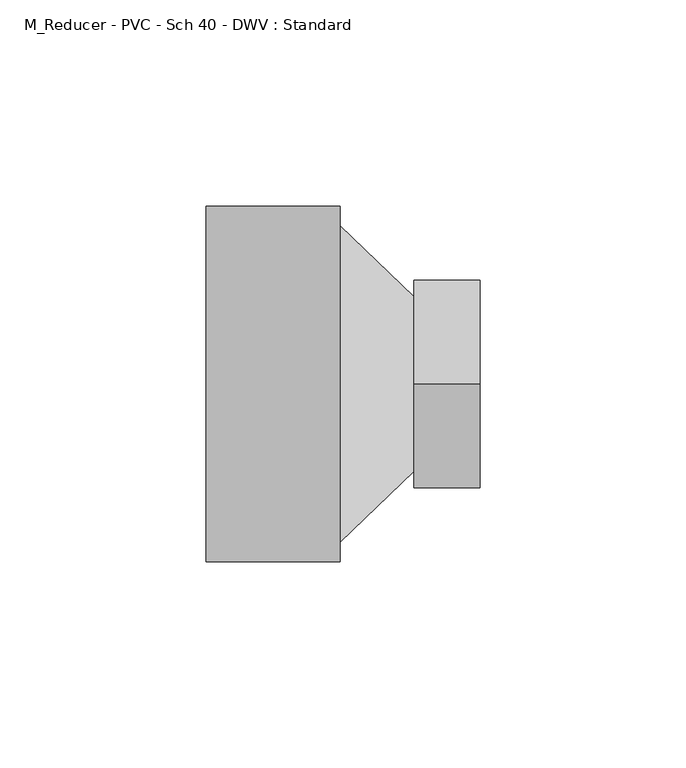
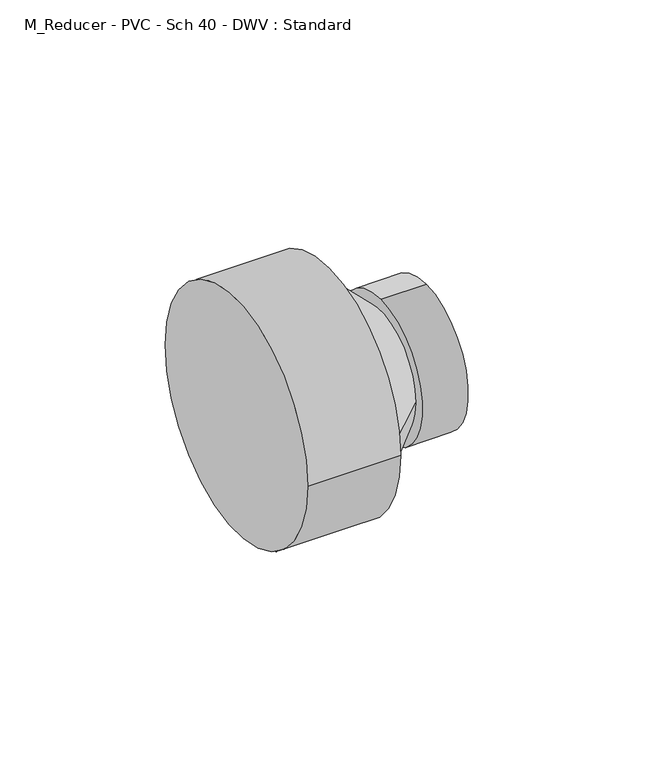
"""IFC4 building model written with IfcOpenShell, lengths in millimetres: pipe fitting geometry, M_Reducer - PVC - Sch 40 - DWV : Standard."""

from ifc_helpers import new_model, si_unit, frame, origin, place, context, project, spatial, circle_curve, source, transform, mapped, element, save
from ifc_brep_helpers import plane_surface, cylinder_surface, spline_surface, advanced_brep


def m_reducer_pvc_sch_40_dwv_standard_d5f313ea(model_context):
    return source(origin(), model_context, "Body", "AdvancedBrep", [
        advanced_brep(
        [(0.0, -43.0871094, 0.0), (0.0, 43.0871094, 0.0), (32.5, -43.0871094, 0.0), (32.5, 43.0871094, 0.0), (32.5, 38.3640625, 0.0), (32.5, -38.3640625, 0.0), (50.4060938, 21.2049931, -0.0523324), (50.4060938, -21.2031319, -0.0523324), (50.4060938, 0.0009306, 25.214777), (50.4060938, 0.0009306, -25.3194417), (66.4060938, 0.0009306, 25.214777), (66.4060938, 0.0009306, -25.3194417)],
        [
            (0, 1, circle_curve(frame((0.0, 0.0, 0.0), z_axis=(-1.0, 0.0, 0.0), x_axis=(0.0, 1.0, 0.0)), 43.0871094)),
            (1, 0, circle_curve(frame((0.0, 0.0, 0.0), z_axis=(-1.0, 0.0, 0.0), x_axis=(0.0, 1.0, 0.0)), 43.0871094)),
            (2, 3, circle_curve(frame((32.5, 0.0, 0.0), z_axis=(1.0, 0.0, 0.0), x_axis=(0.0, 1.0, 0.0)), 43.0871094)),
            (3, 2, circle_curve(frame((32.5, 0.0, 0.0), z_axis=(1.0, 0.0, 0.0), x_axis=(0.0, 1.0, 0.0)), 43.0871094)),
            (4, 5, circle_curve(frame((32.5, 0.0, 0.0), z_axis=(-1.0, 0.0, 0.0), x_axis=(0.0, 1.0, 0.0)), 38.3640625)),
            (5, 4, circle_curve(frame((32.5, 0.0, 0.0), z_axis=(-1.0, 0.0, 0.0), x_axis=(0.0, 1.0, 0.0)), 38.3640625)),
            (0, 2),
            (3, 1),
            (4, 6),
            (6, 7, circle_curve(frame((50.4060938, 0.0009306, -0.0523324), z_axis=(-1.0, 0.0, 0.0), x_axis=(0.0, 1.0, 0.0)), 21.2040625)),
            (7, 5),
            (7, 6, circle_curve(frame((50.4060938, 0.0009306, -0.0523324), z_axis=(-1.0, 0.0, 0.0), x_axis=(0.0, 1.0, 0.0)), 21.2040625)),
            (8, 9, circle_curve(frame((50.4060938, 0.0009306, -0.0523324), z_axis=(-1.0, 0.0, 0.0), x_axis=(0.0, 0.0, -1.0)), 25.2671094)),
            (9, 8, circle_curve(frame((50.4060938, 0.0009306, -0.0523324), z_axis=(-1.0, 0.0, 0.0), x_axis=(0.0, 0.0, -1.0)), 25.2671094)),
            (10, 11, circle_curve(frame((66.4060938, 0.0009306, -0.0523324), z_axis=(1.0, 0.0, 0.0), x_axis=(0.0, 0.0, -1.0)), 25.2671094)),
            (11, 10, circle_curve(frame((66.4060938, 0.0009306, -0.0523324), z_axis=(1.0, 0.0, 0.0), x_axis=(0.0, 0.0, -1.0)), 25.2671094)),
            (8, 10),
            (11, 9),
        ],
        [
            plane_surface(frame((0.0, 0.0, 0.0), z_axis=(-1.0, 0.0, 0.0), x_axis=(0.0, 0.0, 1.0))),
            plane_surface(frame((32.5, 0.0, 0.0), z_axis=(1.0, 0.0, 0.0), x_axis=(0.0, 0.0, 1.0))),
            cylinder_surface(frame((0.0, 0.0, 0.0), z_axis=(-1.0, 0.0, 0.0), x_axis=(0.0, 1.0, 0.0)), 43.0871094),
            spline_surface(2, 1, [[(32.5, -38.3640625, 0.0), (50.4060938, -21.2031319, -0.0523324)], [(32.5, -38.3640625, -38.3640625), (50.4060938, -21.2031319, -21.2563949)], [(32.5, 0.0, -38.3640625), (50.4060938, 0.0009306, -21.2563949)], [(32.5, 38.3640625, -38.3640625), (50.4060938, 21.2049931, -21.2563949)], [(32.5, 38.3640625, 0.0), (50.4060938, 21.2049931, -0.0523324)]], [3, 2, 3], [2, 2], [0.0, 1.0, 2.0], [0.0, 1.0], weights=[[1.0, 1.0], [0.7071067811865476, 0.7071067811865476], [1.0, 1.0], [0.7071067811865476, 0.7071067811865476], [1.0, 1.0]]),
            spline_surface(2, 1, [[(32.5, 38.3640625, 0.0), (50.4060938, 21.2049931, -0.0523324)], [(32.5, 38.3640625, 38.3640625), (50.4060938, 21.2049931, 21.151730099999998)], [(32.5, 0.0, 38.3640625), (50.4060938, 0.0009306, 21.151730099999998)], [(32.5, -38.3640625, 38.3640625), (50.4060938, -21.2031319, 21.151730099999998)], [(32.5, -38.3640625, 0.0), (50.4060938, -21.2031319, -0.0523324)]], [3, 2, 3], [2, 2], [0.0, 1.0, 2.0], [0.0, 1.0], weights=[[1.0, 1.0], [0.7071067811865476, 0.7071067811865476], [1.0, 1.0], [0.7071067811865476, 0.7071067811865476], [1.0, 1.0]]),
            plane_surface(frame((50.4060938, 0.0009306, -0.0523324), z_axis=(-1.0, 0.0, 0.0), x_axis=(0.0, 1.0, 0.0))),
            plane_surface(frame((66.4060938, 0.0009306, -0.0523324), z_axis=(1.0, 0.0, 0.0), x_axis=(0.0, 1.0, 0.0))),
            cylinder_surface(frame((50.4060938, 0.0009306, -0.0523324), z_axis=(-1.0, 0.0, 0.0), x_axis=(0.0, 0.0, -1.0)), 25.2671094),
        ],
        [
            (0, [[1, 2]]),
            (1, [[3, 4], [5, 6]]),
            (2, [[-1, 7, -4, 8]]),
            (2, [[-2, -8, -3, -7]]),
            (3, [[9, 10, 11, -5]]),
            (4, [[-9, -6, -11, 12]]),
            (5, [[13, 14], [-10, -12]]),
            (6, [[15, 16]]),
            (7, [[-13, 17, -16, 18]]),
            (7, [[-14, -18, -15, -17]]),
        ],
    ),
    ])


if __name__ == "__main__":
    model = new_model("IFC4")
    model_context = context("Model", 3, world=origin())
    ifc_project = project(units=[si_unit("LENGTHUNIT", "METRE", prefix="MILLI")], contexts=[model_context])
    site = spatial("IfcSite", under=ifc_project)
    building = spatial("IfcBuilding", under=site)
    placement = place(None, origin())
    m_reducer_pvc_sch_40_dwv_standard_shape = m_reducer_pvc_sch_40_dwv_standard_d5f313ea(model_context)
    element("IfcPipeFitting", 1, ObjectType="M_Reducer - PVC - Sch 40 - DWV : Standard", at=placement, inside=building, context=model_context, shape_type="MappedRepresentation", body=[
        mapped(m_reducer_pvc_sch_40_dwv_standard_shape, transform((0.0, 0.0, 0.0), x_axis=(1.0, 0.0, 0.0), y_axis=(0.0, 1.0, 0.0), z_axis=(0.0, 0.0, 1.0))),
    ])
    save(model, "model.ifc")
